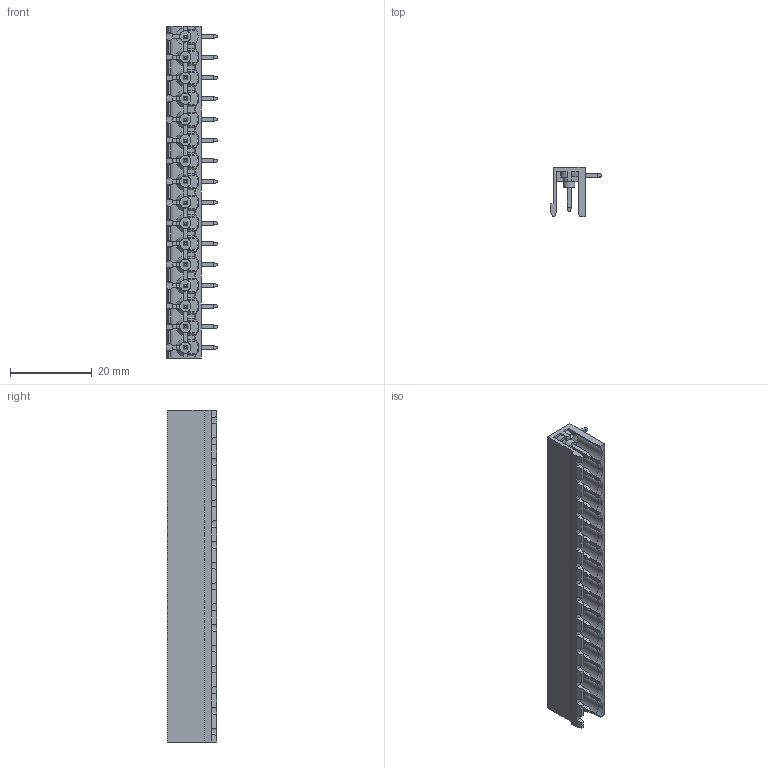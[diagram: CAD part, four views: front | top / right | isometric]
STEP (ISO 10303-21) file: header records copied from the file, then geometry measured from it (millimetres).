
FILE_DESCRIPTION (( 'STEP AP203' ), '1' );
FILE_NAME ('BR8MN1-16.STEP', '2020-03-18T03:16:05', ( '' ), ( '' ), 'SwSTEP 2.0', 'SolidWorks 2019', '' );
FILE_SCHEMA (( 'CONFIG_CONTROL_DESIGN' ));
Length unit declared in the file: millimetre
Products named in the file (1): BR8MN1-16
Bounding box: 12.5 x 12 x 81.28 mm (x, y, z)
Volume: 3103.2 mm3; surface area: 6920 mm2
Topology: 1 solids, 1 shells, 1347 faces, 3510 edges, 2165 vertices
Faces by surface type: plane 1157, cylinder 81, cone 77, sphere 32
Entity records: 40028 total; most frequent: CARTESIAN_POINT 7644, ORIENTED_EDGE 6892, DIRECTION 6309, EDGE_CURVE 3446, VECTOR 2941, LINE 2941, VERTEX_POINT 2133, AXIS2_PLACEMENT_3D 1684
